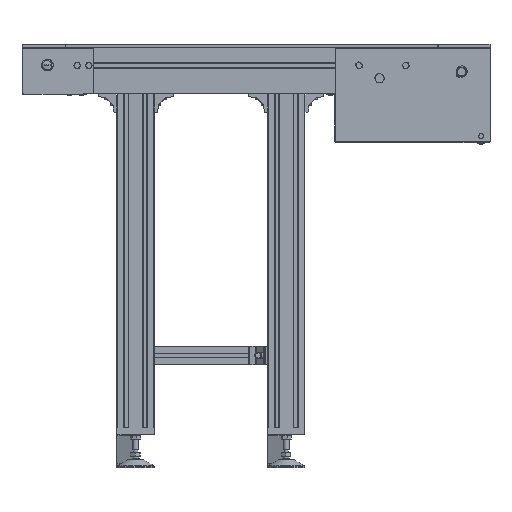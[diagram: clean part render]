
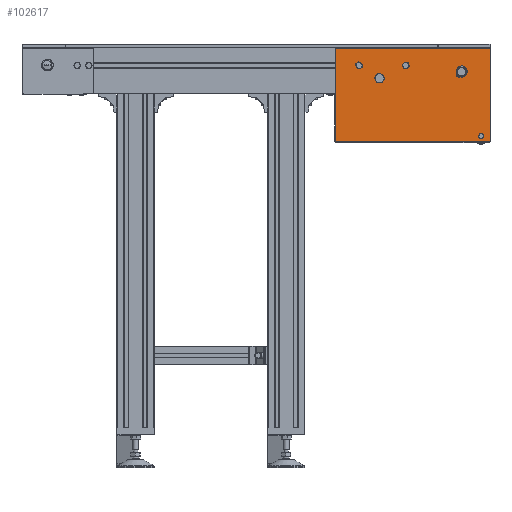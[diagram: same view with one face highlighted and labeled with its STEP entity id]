
A CAD part, front view. The second image highlights one B-rep face of the part: STEP entity #102617.
In plain terms, the highlighted planar face has unit normal (0, -1, 0).
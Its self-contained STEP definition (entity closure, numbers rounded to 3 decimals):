
#2998=FACE_BOUND('',#13792,.T.);
#2999=FACE_BOUND('',#13793,.T.);
#3000=FACE_BOUND('',#13794,.T.);
#3001=FACE_BOUND('',#13795,.T.);
#3002=FACE_BOUND('',#13796,.T.);
#4373=CIRCLE('',#108517,10.);
#4420=CIRCLE('',#108615,5.);
#4437=CIRCLE('',#108652,6.5);
#4438=CIRCLE('',#108653,6.5);
#4439=CIRCLE('',#108654,10.);
#8217=FACE_OUTER_BOUND('',#13791,.T.);
#13791=EDGE_LOOP('',(#69608,#69609,#69610,#69611));
#13792=EDGE_LOOP('',(#69612));
#13793=EDGE_LOOP('',(#69613));
#13794=EDGE_LOOP('',(#69614));
#13795=EDGE_LOOP('',(#69615));
#13796=EDGE_LOOP('',(#69616));
#21687=LINE('',#152035,#31929);
#21699=LINE('',#152071,#31941);
#21700=LINE('',#152073,#31942);
#21701=LINE('',#152074,#31943);
#31929=VECTOR('',#121859,330.);
#31941=VECTOR('',#121885,200.);
#31942=VECTOR('',#121886,200.);
#31943=VECTOR('',#121887,330.);
#41623=VERTEX_POINT('',#151713);
#41695=VERTEX_POINT('',#151928);
#41720=VERTEX_POINT('',#152032);
#41721=VERTEX_POINT('',#152034);
#41738=VERTEX_POINT('',#152070);
#41739=VERTEX_POINT('',#152072);
#41740=VERTEX_POINT('',#152075);
#41741=VERTEX_POINT('',#152077);
#41742=VERTEX_POINT('',#152079);
#52271=EDGE_CURVE('',#41623,#41623,#4373,.T.);
#52363=EDGE_CURVE('',#41695,#41695,#4420,.T.);
#52400=EDGE_CURVE('',#41721,#41720,#21687,.T.);
#52418=EDGE_CURVE('',#41738,#41721,#21699,.T.);
#52419=EDGE_CURVE('',#41720,#41739,#21700,.T.);
#52420=EDGE_CURVE('',#41739,#41738,#21701,.T.);
#52421=EDGE_CURVE('',#41740,#41740,#4437,.T.);
#52422=EDGE_CURVE('',#41741,#41741,#4438,.T.);
#52423=EDGE_CURVE('',#41742,#41742,#4439,.T.);
#69608=ORIENTED_EDGE('',*,*,#52418,.T.);
#69609=ORIENTED_EDGE('',*,*,#52400,.T.);
#69610=ORIENTED_EDGE('',*,*,#52419,.T.);
#69611=ORIENTED_EDGE('',*,*,#52420,.T.);
#69612=ORIENTED_EDGE('',*,*,#52271,.T.);
#69613=ORIENTED_EDGE('',*,*,#52363,.T.);
#69614=ORIENTED_EDGE('',*,*,#52421,.T.);
#69615=ORIENTED_EDGE('',*,*,#52422,.F.);
#69616=ORIENTED_EDGE('',*,*,#52423,.F.);
#93305=PLANE('',#108651);
#102617=ADVANCED_FACE('',(#8217,#2998,#2999,#3000,#3001,#3002),#93305,.T.);
#108517=AXIS2_PLACEMENT_3D('',#151714,#121544,#121545);
#108615=AXIS2_PLACEMENT_3D('',#151929,#121785,#121786);
#108651=AXIS2_PLACEMENT_3D('',#152069,#121883,#121884);
#108652=AXIS2_PLACEMENT_3D('',#152076,#121888,#121889);
#108653=AXIS2_PLACEMENT_3D('',#152078,#121890,#121891);
#108654=AXIS2_PLACEMENT_3D('',#152080,#121892,#121893);
#121544=DIRECTION('center_axis',(0.,1.,0.));
#121545=DIRECTION('ref_axis',(-0.431,0.,-0.902));
#121785=DIRECTION('center_axis',(0.,1.,0.));
#121786=DIRECTION('ref_axis',(-1.,0.,0.));
#121859=DIRECTION('',(-1.,0.,0.));
#121883=DIRECTION('center_axis',(0.,-1.,0.));
#121884=DIRECTION('ref_axis',(1.,0.,0.));
#121885=DIRECTION('',(0.,0.,1.));
#121886=DIRECTION('',(0.,0.,-1.));
#121887=DIRECTION('',(1.,0.,0.));
#121888=DIRECTION('center_axis',(0.,1.,0.));
#121889=DIRECTION('ref_axis',(-1.,0.,0.));
#121890=DIRECTION('center_axis',(0.,-1.,0.));
#121891=DIRECTION('ref_axis',(-1.,0.,0.));
#121892=DIRECTION('center_axis',(0.,-1.,0.));
#121893=DIRECTION('ref_axis',(0.108,0.,0.994));
#151713=CARTESIAN_POINT('',(943.811,-215.7,55.723));
#151714=CARTESIAN_POINT('Origin',(939.5,-215.7,46.7));
#151928=CARTESIAN_POINT('',(976.5,-215.7,-91.05));
#151929=CARTESIAN_POINT('Origin',(981.5,-215.7,-91.05));
#152032=CARTESIAN_POINT('',(670.5,-215.7,96.45));
#152034=CARTESIAN_POINT('',(1000.5,-215.7,96.45));
#152035=CARTESIAN_POINT('',(835.5,-215.7,96.45));
#152069=CARTESIAN_POINT('Origin',(835.5,-215.7,-3.55));
#152070=CARTESIAN_POINT('',(1000.5,-215.7,-103.55));
#152071=CARTESIAN_POINT('',(1000.5,-215.7,-3.55));
#152072=CARTESIAN_POINT('',(670.5,-215.7,-103.55));
#152073=CARTESIAN_POINT('',(670.5,-215.7,-3.55));
#152074=CARTESIAN_POINT('',(835.5,-215.7,-103.55));
#152075=CARTESIAN_POINT('',(814.,-215.7,59.975));
#152076=CARTESIAN_POINT('Origin',(820.5,-215.7,59.975));
#152077=CARTESIAN_POINT('',(714.,-215.7,59.975));
#152078=CARTESIAN_POINT('Origin',(720.5,-215.7,59.975));
#152079=CARTESIAN_POINT('',(765.578,-215.7,42.642));
#152080=CARTESIAN_POINT('Origin',(764.5,-215.7,32.7));
